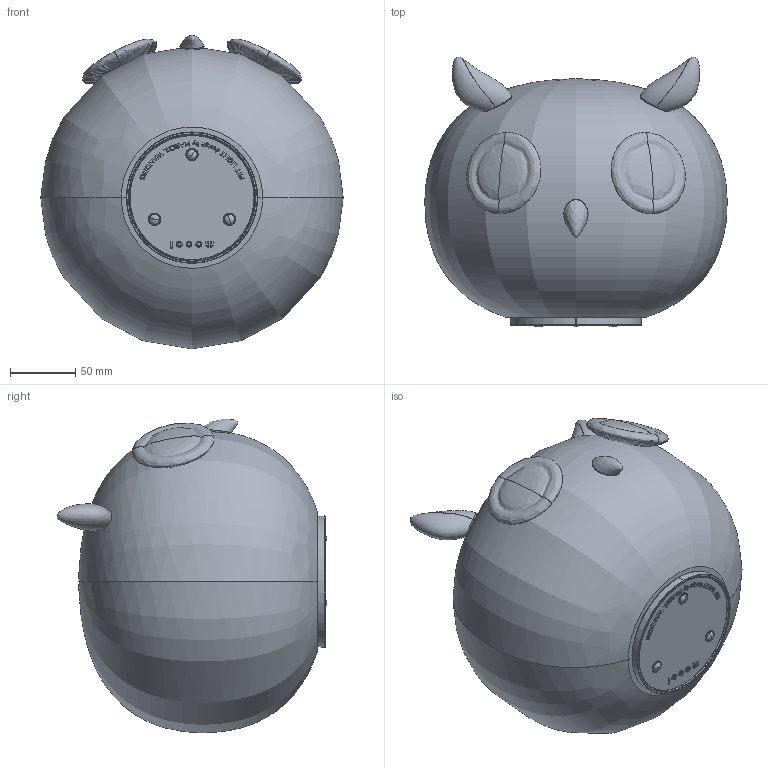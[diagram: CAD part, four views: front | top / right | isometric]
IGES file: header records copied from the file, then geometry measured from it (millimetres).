
Start section: SolidWorks IGES file using analytic representation for surfaces
Global section: file name: C:\Moooi\Project\LI_Lighting Decorative\LI135 Animal lamps\11_Export\A000659_Creations__04-05-2018.igs; native system: SolidWorks 2017; preprocessor: SolidWorks 2017; author: tessakoppers; date: 180504.105421; units: millimetre
Bounding box: 230.94 x 206.02 x 239.51 mm (x, y, z)
Surface area: 179942.9 mm2 (no closed solid volume)
Topology: 0 solids, 0 shells, 277 faces, 3349 edges, 3329 vertices
Faces by surface type: bspline 247, revolution 30
